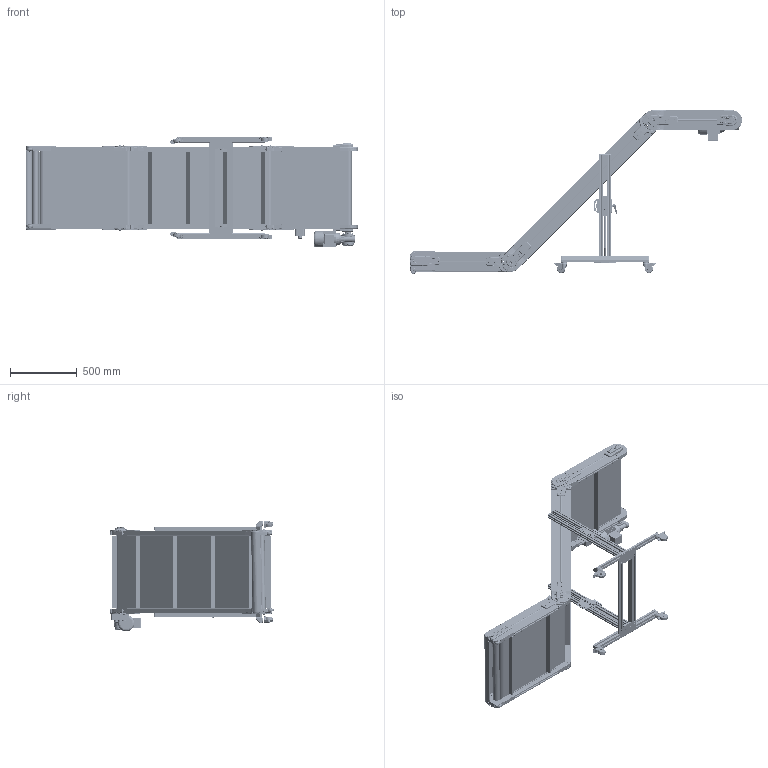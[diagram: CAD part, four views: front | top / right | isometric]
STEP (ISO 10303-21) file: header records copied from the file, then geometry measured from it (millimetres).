
FILE_DESCRIPTION (( 'STEP AP203' ), '1' );
FILE_NAME ('NASTRO_STAMPAGGIO_PLASTICA.step', '2026-05-06T07:15:14', ( 'Utente Windows' ), ( '' ), 'SwSTEP 2.0', 'SolidWorks 2024', '' );
FILE_SCHEMA (( 'CONFIG_CONTROL_DESIGN' ));
Length unit declared in the file: millimetre
Products named in the file (104): VITI TCEI UNI 5931_M5x40 UNI 5931; xald03h7_03; 084.831.003; xald03h7_09; 084.831.022; a165els24d01_01; MR.63 p-M8x16; 084.831.015; 084.301.000 VITI ALUSIC_084.301.003; TELAIO_Z_Default<A macchina>; 084.831.KD.44.550_SX; RONDELLE FASCIA LARGA UNI 6593_8.4x24 UNI 6593; 084.831.040.550; CHIAVETTE_A 6x6x60 UNI 6604-69; 084.802.061; LAMIERA_T3; 3sb30000aa21_01; 084.831.KA_550_B; 084.527.013; RONDELLE FASCIA LARGA UNI 6593_6.4x24 UNI 6593; 084.831.KP.550; 361102 serie 36; VITI TESTA BOMBATA ISO 730_0816UNI7380; RONDELLE UNI 6592_6.4x12.5 UNI 6592; CUSCINETTI A SFERE_6001-2RS; 084.831.005_L; 084.831.020.600; RONDELLE UNI 6592_8.4x17 UNI 6592; 084.831.056; VITI TE UNI 5739_M6x120 UNI5739; xald03h7_04; 3sb30000aa41_01; 084.831.014; 013.100.045; xald03h7_08; 084.803.018; 084.831.012_Default<A macchina>; xald03h7_11; CH04P_SX; 3sb30000aa21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
Assembly tree (219 placements, depth 4):
  xald03h7_03
  xald03h7_09
  xald03h7_04
  xald03h7_08
  xald03h7_11
Bounding box: 2489.63 x 1225.6 x 831 mm (x, y, z)
Volume: 28043556.2 mm3; surface area: 21859121.4 mm2
Topology: 370 solids, 379 shells, 34480 faces, 91757 edges, 58738 vertices
Faces by surface type: plane 16040, cylinder 9368, bspline 3873, cone 3344, torus 1417, sphere 438
Entity records: 582860 total; most frequent: CARTESIAN_POINT 182261, ORIENTED_EDGE 86458, DIRECTION 74416, EDGE_CURVE 43229, VERTEX_POINT 27904, AXIS2_PLACEMENT_3D 25269, LINE 23878, VECTOR 23878
